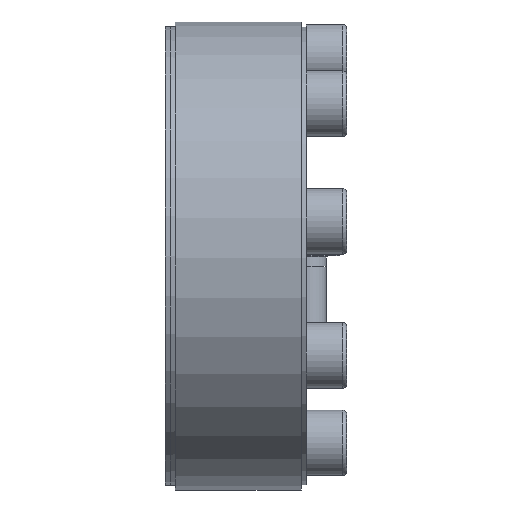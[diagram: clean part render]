
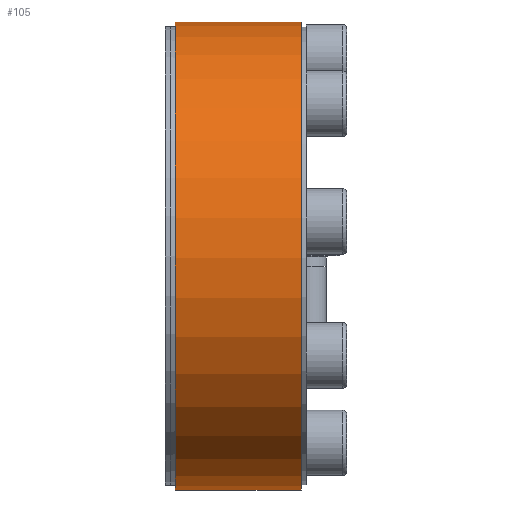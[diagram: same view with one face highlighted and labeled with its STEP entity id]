
A CAD part, left-side view. The second image highlights one B-rep face of the part: STEP entity #105.
In plain terms, the highlighted cylindrical face has radius 46.5 mm (diameter 93 mm), a partial arc.
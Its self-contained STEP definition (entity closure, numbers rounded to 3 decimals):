
#105 = ADVANCED_FACE( '', ( #229 ), #230, .T. );
#229 = FACE_OUTER_BOUND( '', #379, .T. );
#230 = CYLINDRICAL_SURFACE( '', #380, 46.5 );
#379 = EDGE_LOOP( '', ( #634, #635, #636, #637 ) );
#380 = AXIS2_PLACEMENT_3D( '', #638, #639, #640 );
#634 = ORIENTED_EDGE( '', *, *, #809, .F. );
#635 = ORIENTED_EDGE( '', *, *, #831, .T. );
#636 = ORIENTED_EDGE( '', *, *, #855, .T. );
#637 = ORIENTED_EDGE( '', *, *, #839, .F. );
#638 = CARTESIAN_POINT( '', ( 0., -60., 0. ) );
#639 = DIRECTION( '', ( 0., 1., 0. ) );
#640 = DIRECTION( '', ( 0., 0., -1. ) );
#809 = EDGE_CURVE( '', #974, #975, #976, .T. );
#831 = EDGE_CURVE( '', #974, #1015, #1016, .T. );
#839 = EDGE_CURVE( '', #975, #1027, #1028, .T. );
#855 = EDGE_CURVE( '', #1015, #1027, #1053, .T. );
#974 = VERTEX_POINT( '', #1266 );
#975 = VERTEX_POINT( '', #1267 );
#976 = LINE( '', #1268, #1269 );
#1015 = VERTEX_POINT( '', #1321 );
#1016 = CIRCLE( '', #1322, 46.5 );
#1027 = VERTEX_POINT( '', #1336 );
#1028 = CIRCLE( '', #1337, 46.5 );
#1053 = LINE( '', #1374, #1375 );
#1266 = CARTESIAN_POINT( '', ( 14.961, 26., 44.028 ) );
#1267 = CARTESIAN_POINT( '', ( 14.961, 1., 44.028 ) );
#1268 = CARTESIAN_POINT( '', ( 14.961, -60., 44.028 ) );
#1269 = VECTOR( '', #1477, 1000. );
#1321 = CARTESIAN_POINT( '', ( 16.84, 26., 43.344 ) );
#1322 = AXIS2_PLACEMENT_3D( '', #1512, #1513, #1514 );
#1336 = CARTESIAN_POINT( '', ( 16.84, 1., 43.344 ) );
#1337 = AXIS2_PLACEMENT_3D( '', #1524, #1525, #1526 );
#1374 = CARTESIAN_POINT( '', ( 16.84, -60., 43.344 ) );
#1375 = VECTOR( '', #1542, 1000. );
#1477 = DIRECTION( '', ( 0., -1., 0. ) );
#1512 = CARTESIAN_POINT( '', ( 0., 26., 0. ) );
#1513 = DIRECTION( '', ( 0., -1., 0. ) );
#1514 = DIRECTION( '', ( 0., 0., -1. ) );
#1524 = CARTESIAN_POINT( '', ( 0., 1., 0. ) );
#1525 = DIRECTION( '', ( 0., -1., 0. ) );
#1526 = DIRECTION( '', ( 0., 0., -1. ) );
#1542 = DIRECTION( '', ( 0., -1., 0. ) );
